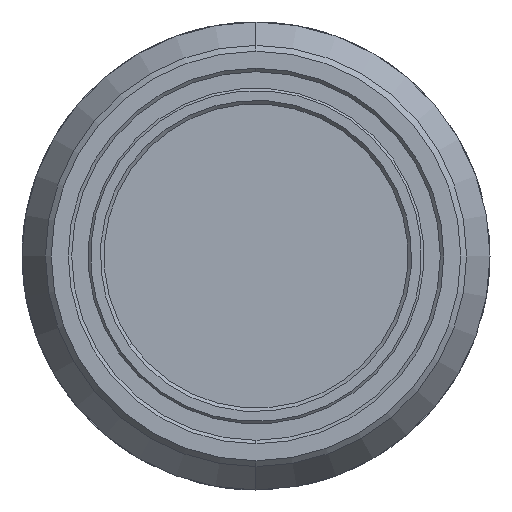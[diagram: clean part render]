
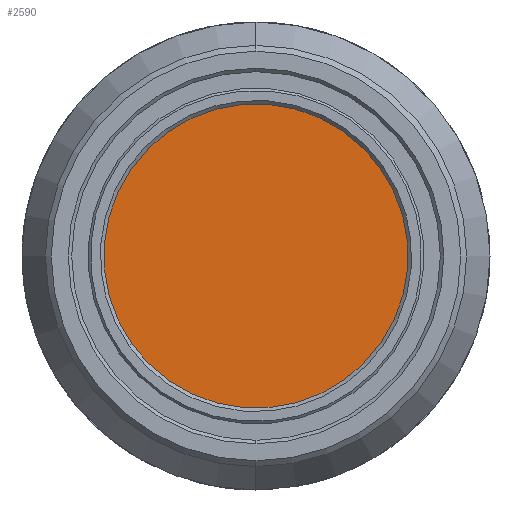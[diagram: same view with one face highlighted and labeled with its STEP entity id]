
A CAD part, left-side view. The second image highlights one B-rep face of the part: STEP entity #2590.
In plain terms, the highlighted planar face has unit normal (-1, 0, 0).
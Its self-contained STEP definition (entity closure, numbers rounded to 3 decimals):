
#946 = CARTESIAN_POINT ( 'NONE',  ( -8.734, 10.611, -7.511 ) ) ;
#1035 = DIRECTION ( 'NONE',  ( -1., 0., 0. ) ) ;
#1054 = CARTESIAN_POINT ( 'NONE',  ( -8.734, 0., 0. ) ) ;
#1146 = DIRECTION ( 'NONE',  ( 1., 0., 0. ) ) ;
#1231 = CIRCLE ( 'NONE', #1236, 13. ) ;
#1236 = AXIS2_PLACEMENT_3D ( 'NONE', #1054, #4142, #5716 ) ;
#1496 = VERTEX_POINT ( 'NONE', #3659 ) ;
#1765 = EDGE_CURVE ( 'NONE', #2465, #1496, #1231, .T. ) ;
#2084 = DIRECTION ( 'NONE',  ( 0., 0., 1. ) ) ;
#2465 = VERTEX_POINT ( 'NONE', #946 ) ;
#2575 = AXIS2_PLACEMENT_3D ( 'NONE', #4771, #1146, #2674 ) ;
#2590 = ADVANCED_FACE ( 'NONE', ( #6222 ), #3120, .T. ) ;
#2643 = EDGE_CURVE ( 'NONE', #1496, #2465, #3453, .T. ) ;
#2674 = DIRECTION ( 'NONE',  ( 0., 0., 1. ) ) ;
#3120 = PLANE ( 'NONE',  #5380 ) ;
#3453 = CIRCLE ( 'NONE', #2575, 13. ) ;
#3659 = CARTESIAN_POINT ( 'NONE',  ( -8.734, -10.611, 7.511 ) ) ;
#4142 = DIRECTION ( 'NONE',  ( 1., 0., 0. ) ) ;
#4143 = CARTESIAN_POINT ( 'NONE',  ( -8.734, 0., 0. ) ) ;
#4771 = CARTESIAN_POINT ( 'NONE',  ( -8.734, 0., 0. ) ) ;
#4837 = ORIENTED_EDGE ( 'NONE', *, *, #2643, .F. ) ;
#5294 = ORIENTED_EDGE ( 'NONE', *, *, #1765, .F. ) ;
#5380 = AXIS2_PLACEMENT_3D ( 'NONE', #4143, #1035, #2084 ) ;
#5716 = DIRECTION ( 'NONE',  ( 0., 0., 1. ) ) ;
#6178 = EDGE_LOOP ( 'NONE', ( #5294, #4837 ) ) ;
#6222 = FACE_OUTER_BOUND ( 'NONE', #6178, .T. ) ;
